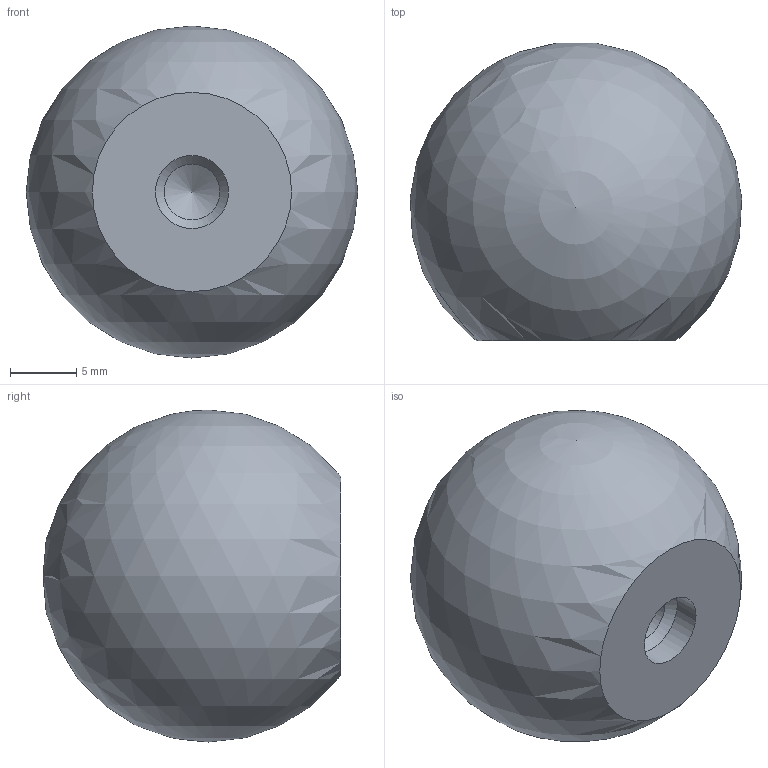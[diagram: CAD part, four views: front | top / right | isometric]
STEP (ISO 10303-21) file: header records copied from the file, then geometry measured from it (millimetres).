
FILE_DESCRIPTION (( 'STEP AP214' ), '1' );
FILE_NAME ('319-KU-25-M5-C.step', '2019-04-24T08:50:15', ( 'user' ), ( '' ), 'SwSTEP 2.0', 'SolidWorks 2019', '' );
FILE_SCHEMA (( 'AUTOMOTIVE_DESIGN' ));
Length unit declared in the file: millimetre
Products named in the file (1): 319-KU-25-M5-C
Bounding box: 24.96 x 22.42 x 25 mm (x, y, z)
Volume: 7757.2 mm3; surface area: 2108.2 mm2
Topology: 1 solids, 1 shells, 6 faces, 15 edges, 10 vertices
Faces by surface type: cone 2, cylinder 2, plane 1, sphere 1
Full cylindrical faces by diameter (mm): 4.2 x1, 5.5 x1
Entity records: 159 total; most frequent: DIRECTION 24, CARTESIAN_POINT 17, AXIS2_PLACEMENT_3D 12, EDGE_LOOP 10, ORIENTED_EDGE 10, FACE_OUTER_BOUND 8, ADVANCED_FACE 6, CIRCLE 5
